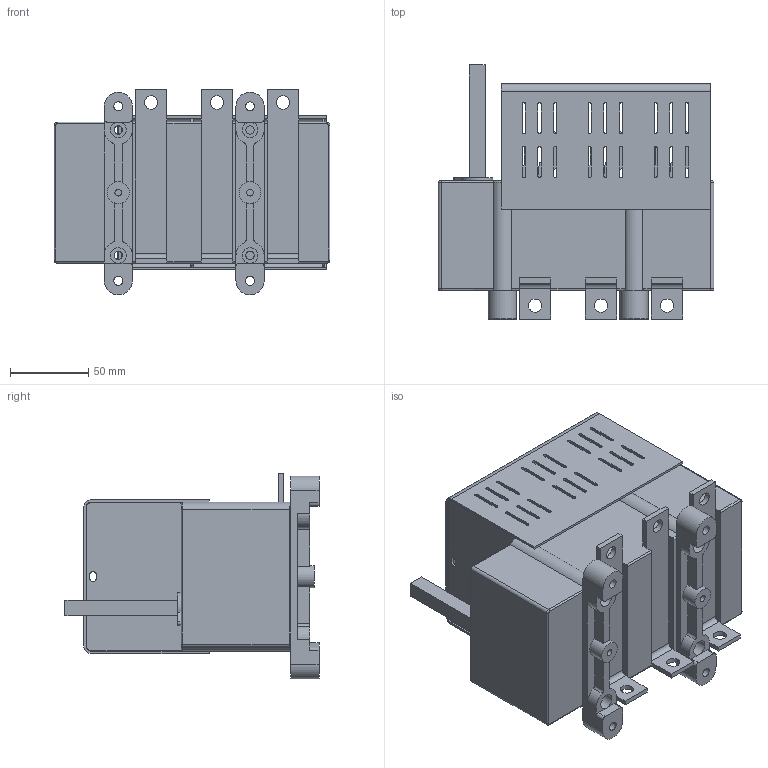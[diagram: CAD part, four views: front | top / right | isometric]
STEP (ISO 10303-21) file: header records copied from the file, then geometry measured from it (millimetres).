
FILE_DESCRIPTION(/* description */ (''),/* implementation_level */ '2;1');
FILE_NAME(/* name */ 'RAB 00 P3 B.stp',/* time_stamp */ '2021-08-19T11:28:12+02:00',/* author */ (''),/* organization */ (''),/* preprocessor_version */ 'ST-DEVELOPER v18.1',/* originating_system */ 'SIEMENS PLM Software NX 1965',/* authorisation */ '');
FILE_SCHEMA (('AUTOMOTIVE_DESIGN { 1 0 10303 214 3 1 1 1 }'));
Length unit declared in the file: millimetre
Products named in the file (1): RAB 00 P3 B_stp
Bounding box: 176 x 162 x 131.18 mm (x, y, z)
Volume: 1237697.4 mm3; surface area: 221728.2 mm2
Topology: 1 solids, 1 shells, 843 faces, 2396 edges, 1563 vertices
Faces by surface type: plane 530, cylinder 301, torus 7, bspline 5
Full cylindrical faces by diameter (mm): 2.7 x4, 4.3 x2, 5 x6, 5.3 x4, 5.8 x4, 8.5 x6, 10 x8, 14 x2
Entity records: 27344 total; most frequent: CARTESIAN_POINT 4905, ORIENTED_EDGE 4674, DIRECTION 4605, EDGE_CURVE 2337, LINE 1697, VECTOR 1697, VERTEX_POINT 1540, AXIS2_PLACEMENT_3D 1454
